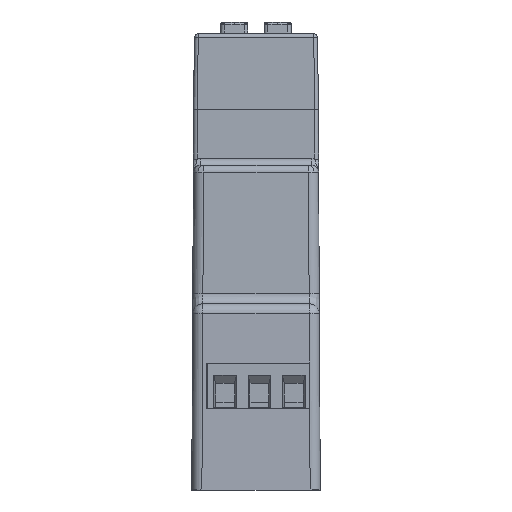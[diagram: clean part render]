
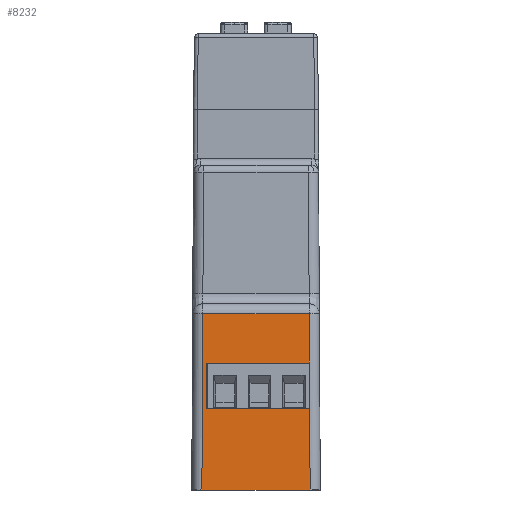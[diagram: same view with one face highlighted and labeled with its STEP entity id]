
A CAD part, left-side view. The second image highlights one B-rep face of the part: STEP entity #8232.
In plain terms, the highlighted planar face has unit normal (-1, 0, 0.005).
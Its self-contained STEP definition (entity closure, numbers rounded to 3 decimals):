
#81 = EDGE_CURVE ( 'NONE', #13914, #15980, #1393, .T. ) ;
#86 = CARTESIAN_POINT ( 'NONE',  ( -45.002, 7.993, -56.22 ) ) ;
#207 = DIRECTION ( 'NONE',  ( 0., -1., 0. ) ) ;
#378 = VERTEX_POINT ( 'NONE', #1171 ) ;
#416 = ORIENTED_EDGE ( 'NONE', *, *, #10214, .T. ) ;
#809 = LINE ( 'NONE', #11870, #2160 ) ;
#878 = LINE ( 'NONE', #3327, #10677 ) ;
#1057 = VECTOR ( 'NONE', #14764, 1000. ) ;
#1145 = EDGE_CURVE ( 'NONE', #5449, #13914, #809, .T. ) ;
#1171 = CARTESIAN_POINT ( 'NONE',  ( -44.866, 7.859, -30.192 ) ) ;
#1393 = LINE ( 'NONE', #12708, #14265 ) ;
#1395 = AXIS2_PLACEMENT_3D ( 'NONE', #9259, #4221, #1939 ) ;
#1790 = VERTEX_POINT ( 'NONE', #6853 ) ;
#1939 = DIRECTION ( 'NONE',  ( -0.005, 0., -1. ) ) ;
#2093 = PLANE ( 'NONE',  #1395 ) ;
#2160 = VECTOR ( 'NONE', #9276, 1000. ) ;
#2177 = VECTOR ( 'NONE', #14293, 1000. ) ;
#2183 = EDGE_CURVE ( 'NONE', #13452, #2993, #2313, .T. ) ;
#2313 = LINE ( 'NONE', #7449, #10850 ) ;
#2360 = ORIENTED_EDGE ( 'NONE', *, *, #2183, .T. ) ;
#2765 = EDGE_CURVE ( 'NONE', #2993, #1790, #878, .T. ) ;
#2993 = VERTEX_POINT ( 'NONE', #14923 ) ;
#3327 = CARTESIAN_POINT ( 'NONE',  ( -45.005, -8.004, -56.728 ) ) ;
#3533 = CARTESIAN_POINT ( 'NONE',  ( -44.866, 9.351, -30.192 ) ) ;
#3657 = LINE ( 'NONE', #11041, #1057 ) ;
#3704 = DIRECTION ( 'NONE',  ( 0.005, 0., 1. ) ) ;
#4155 = LINE ( 'NONE', #11868, #2177 ) ;
#4221 = DIRECTION ( 'NONE',  ( -1., 0., 0.005 ) ) ;
#4865 = VERTEX_POINT ( 'NONE', #12504 ) ;
#5088 = ORIENTED_EDGE ( 'NONE', *, *, #13511, .T. ) ;
#5209 = EDGE_CURVE ( 'NONE', #15980, #15130, #9980, .T. ) ;
#5449 = VERTEX_POINT ( 'NONE', #11993 ) ;
#6357 = ORIENTED_EDGE ( 'NONE', *, *, #81, .F. ) ;
#6546 = LINE ( 'NONE', #12379, #11926 ) ;
#6573 = ORIENTED_EDGE ( 'NONE', *, *, #8811, .F. ) ;
#6853 = CARTESIAN_POINT ( 'NONE',  ( -44.92, -7.921, -40.508 ) ) ;
#7228 = DIRECTION ( 'NONE',  ( 0.005, 0.005, 1. ) ) ;
#7449 = CARTESIAN_POINT ( 'NONE',  ( -45.002, -9.504, -56.22 ) ) ;
#8232 = ADVANCED_FACE ( 'NONE', ( #13220 ), #2093, .T. ) ;
#8329 = LINE ( 'NONE', #3533, #9578 ) ;
#8489 = DIRECTION ( 'NONE',  ( 0., 1., 0. ) ) ;
#8811 = EDGE_CURVE ( 'NONE', #15130, #1790, #6546, .T. ) ;
#8993 = EDGE_LOOP ( 'NONE', ( #2360, #10302, #6573, #11630, #6357, #13052, #13665, #416, #5088 ) ) ;
#9209 = CARTESIAN_POINT ( 'NONE',  ( -44.939, 7.312, -44.17 ) ) ;
#9259 = CARTESIAN_POINT ( 'NONE',  ( -45.005, -9.504, -56.72 ) ) ;
#9276 = DIRECTION ( 'NONE',  ( 0., 1., 0. ) ) ;
#9578 = VECTOR ( 'NONE', #8489, 1000. ) ;
#9980 = LINE ( 'NONE', #14924, #11935 ) ;
#10214 = EDGE_CURVE ( 'NONE', #4865, #378, #8329, .T. ) ;
#10302 = ORIENTED_EDGE ( 'NONE', *, *, #2765, .T. ) ;
#10677 = VECTOR ( 'NONE', #7228, 1000. ) ;
#10850 = VECTOR ( 'NONE', #11166, 1000. ) ;
#10894 = CARTESIAN_POINT ( 'NONE',  ( -44.939, -7.921, -44.17 ) ) ;
#11041 = CARTESIAN_POINT ( 'NONE',  ( -45.005, -8.004, -56.728 ) ) ;
#11166 = DIRECTION ( 'NONE',  ( 0., -1., 0. ) ) ;
#11583 = DIRECTION ( 'NONE',  ( -0.005, 0., -1. ) ) ;
#11630 = ORIENTED_EDGE ( 'NONE', *, *, #5209, .F. ) ;
#11868 = CARTESIAN_POINT ( 'NONE',  ( -45.002, 7.993, -56.228 ) ) ;
#11870 = CARTESIAN_POINT ( 'NONE',  ( -44.904, -7.921, -37.45 ) ) ;
#11926 = VECTOR ( 'NONE', #3704, 1000. ) ;
#11935 = VECTOR ( 'NONE', #207, 1000. ) ;
#11993 = CARTESIAN_POINT ( 'NONE',  ( -44.904, -7.905, -37.45 ) ) ;
#12379 = CARTESIAN_POINT ( 'NONE',  ( -44.939, -7.921, -44.17 ) ) ;
#12504 = CARTESIAN_POINT ( 'NONE',  ( -44.866, -7.867, -30.192 ) ) ;
#12663 = EDGE_CURVE ( 'NONE', #5449, #4865, #3657, .T. ) ;
#12708 = CARTESIAN_POINT ( 'NONE',  ( -44.904, 7.312, -37.45 ) ) ;
#13052 = ORIENTED_EDGE ( 'NONE', *, *, #1145, .F. ) ;
#13220 = FACE_OUTER_BOUND ( 'NONE', #8993, .T. ) ;
#13452 = VERTEX_POINT ( 'NONE', #86 ) ;
#13511 = EDGE_CURVE ( 'NONE', #378, #13452, #4155, .T. ) ;
#13665 = ORIENTED_EDGE ( 'NONE', *, *, #12663, .T. ) ;
#13914 = VERTEX_POINT ( 'NONE', #14188 ) ;
#14188 = CARTESIAN_POINT ( 'NONE',  ( -44.904, 7.312, -37.45 ) ) ;
#14265 = VECTOR ( 'NONE', #11583, 1000. ) ;
#14293 = DIRECTION ( 'NONE',  ( -0.005, 0.005, -1. ) ) ;
#14764 = DIRECTION ( 'NONE',  ( 0.005, 0.005, 1. ) ) ;
#14923 = CARTESIAN_POINT ( 'NONE',  ( -45.002, -8.002, -56.22 ) ) ;
#14924 = CARTESIAN_POINT ( 'NONE',  ( -44.939, 7.312, -44.17 ) ) ;
#15130 = VERTEX_POINT ( 'NONE', #10894 ) ;
#15980 = VERTEX_POINT ( 'NONE', #9209 ) ;
